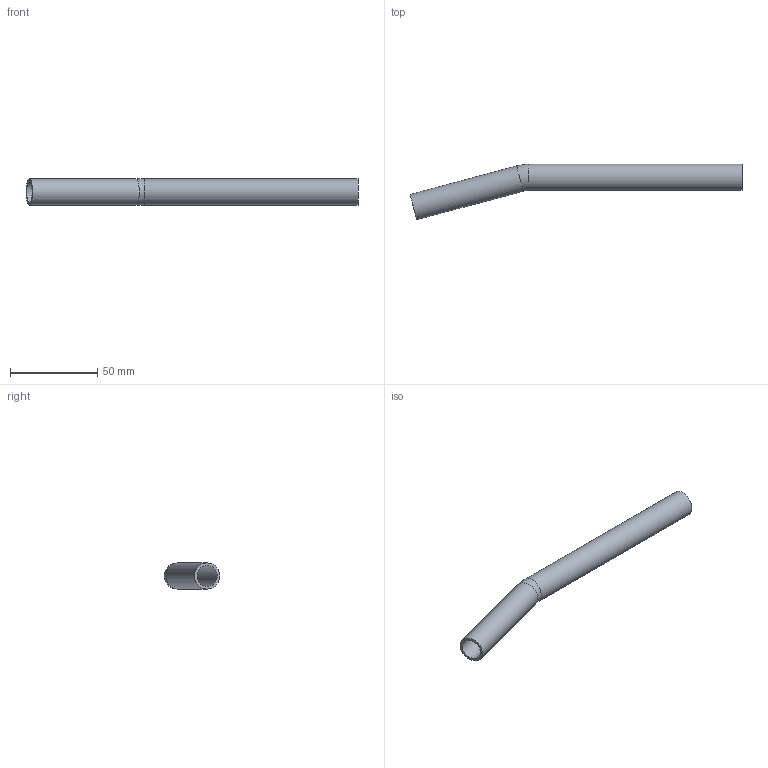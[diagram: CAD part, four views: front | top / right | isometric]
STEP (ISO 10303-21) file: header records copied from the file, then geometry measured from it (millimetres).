
FILE_DESCRIPTION((''),'2;1');
FILE_NAME('G:\Nirosan-Schmiedefeld\Technics\CAD\Bauteile VA\015\6904315(1).stp','2011-10-26T11:55:00',('herberg'),(''),'Autodesk Inventor 2009','Autodesk Inventor 2009','');
FILE_SCHEMA(('AUTOMOTIVE_DESIGN { 1 0 10303 214 1 1 1 1 }'));
Length unit declared in the file: millimetre
Products named in the file (1): 6904315(1)
Bounding box: 190.69 x 31.83 x 15 mm (x, y, z)
Volume: 12149 mm3; surface area: 16325.9 mm2
Topology: 1 solids, 1 shells, 8 faces, 14 edges, 8 vertices
Faces by surface type: cylinder 4, torus 2, plane 2
Full cylindrical faces by diameter (mm): 12 x2, 15 x2
Entity records: 194 total; most frequent: DIRECTION 34, CARTESIAN_POINT 25, AXIS2_PLACEMENT_3D 17, ORIENTED_EDGE 16, EDGE_LOOP 16, VERTEX_POINT 8, CIRCLE 8, EDGE_CURVE 8
